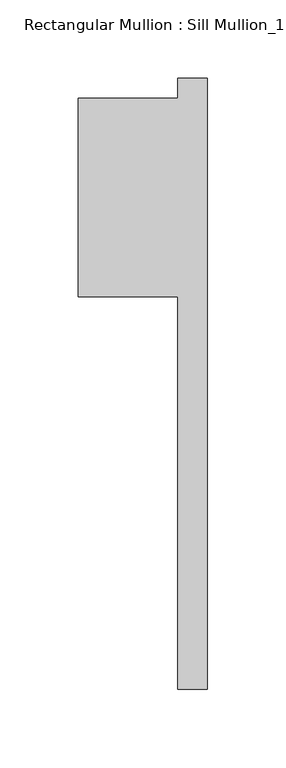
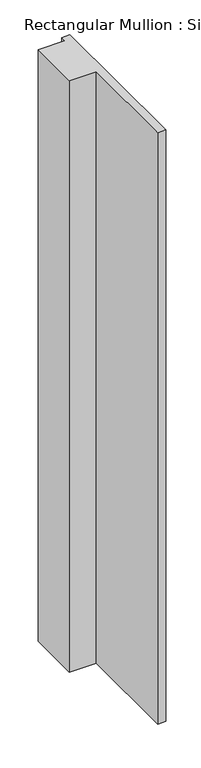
"""IFC4 building model written with IfcOpenShell, lengths in millimetres: member geometry."""

import ifcopenshell
import ifcopenshell.guid

model = None  # the IFC model being written
_history = None  # IfcOwnerHistory: only IFC2X3 demands one
_inside = {}  # id of a spatial element -> (the spatial element, [elements in it])
_under = {}  # id of a project, library or spatial element -> (it, [spatial elements below it])
_declared = {}  # id of a project -> (the project, [libraries it declares])
_typed = {}  # id of a type object -> (the type object, [elements of that type])
_made_of = {}  # id of a material, layer set ... -> (it, [elements and type objects made of it])


def new_model(schema):
    """Start an empty IFC model of exactly this schema.

    Asked for "IFC4X3", IfcOpenShell would pick the latest addendum, in which some entities
    have other attributes; the version numbers below select the first issue.
    IFC2X3 requires an IfcOwnerHistory on every rooted entity: one is made here for all.
    """
    global model, _history
    if schema == "IFC4X3":
        model = ifcopenshell.file(schema_version=(4, 3, 0, 0))
    else:
        model = ifcopenshell.file(schema=schema)
    _inside.clear()
    _under.clear()
    _declared.clear()
    _typed.clear()
    _made_of.clear()
    _history = None
    if model.schema == "IFC2X3":
        org = make("IfcOrganization", Name="unknown")
        user = make(
            "IfcPersonAndOrganization",
            ThePerson=make("IfcPerson", FamilyName="unknown"),
            TheOrganization=org,
        )
        app = make(
            "IfcApplication",
            ApplicationDeveloper=org,
            Version="unknown",
            ApplicationFullName="unknown",
            ApplicationIdentifier="unknown",
        )
        _history = make(
            "IfcOwnerHistory",
            OwningUser=user,
            OwningApplication=app,
            ChangeAction="ADDED",
            CreationDate=0,
        )
    return model


def make(cls, **values):
    """One entity of the class cls with the attributes given. An attribute that is None is left unset."""
    return model.create_entity(
        cls, **{name: value for name, value in values.items() if value is not None}
    )


def rooted(cls, **values):
    """An entity with a GlobalId (a new one), such as an element, a storey or a relation."""
    return make(cls, GlobalId=ifcopenshell.guid.new(), OwnerHistory=_history, **values)


def si_unit(unit_type, name, prefix=None):
    """IfcSIUnit, for example si_unit("LENGTHUNIT", "METRE", prefix="MILLI")."""
    return make("IfcSIUnit", UnitType=unit_type, Prefix=prefix, Name=name)


def assignment(units):
    """IfcUnitAssignment: the units of a project."""
    return None if units is None else make("IfcUnitAssignment", Units=units)


def point(xyz):
    """IfcCartesianPoint."""
    return None if xyz is None else make("IfcCartesianPoint", Coordinates=xyz)


def direction(xyz):
    """IfcDirection."""
    return None if xyz is None else make("IfcDirection", DirectionRatios=xyz)


def frame(location, z_axis=None, x_axis=None):
    """IfcAxis2Placement3D, a coordinate frame: its origin and axes. An axis left out is left unset."""
    return make(
        "IfcAxis2Placement3D",
        Location=point(location),
        Axis=direction(z_axis),
        RefDirection=direction(x_axis),
    )


def origin():
    """The frame at (0, 0, 0) with its axes left unset."""
    return frame((0.0, 0.0, 0.0))


def place(relative_to, where):
    """IfcLocalPlacement: puts the frame where relative to a parent placement (None: the world)."""
    return make(
        "IfcLocalPlacement", PlacementRelTo=relative_to, RelativePlacement=where
    )


def context(
    kind, dimensions, precision=None, world=None, true_north=None, identifier=None
):
    """IfcGeometricRepresentationContext, for example the 3D "Model" context."""
    return make(
        "IfcGeometricRepresentationContext",
        ContextIdentifier=identifier,
        ContextType=kind,
        CoordinateSpaceDimension=dimensions,
        Precision=precision,
        WorldCoordinateSystem=world,
        TrueNorth=true_north,
    )


def project(units=None, contexts=None):
    """IfcProject with its units and contexts."""
    return rooted(
        "IfcProject",
        Name="project",
        RepresentationContexts=contexts,
        UnitsInContext=assignment(units),
    )


def spatial(cls, under=None, at=None, **own):
    """A site, building, storey or space (cls), placed at a placement, below another one or the project."""
    s = rooted(cls, ObjectPlacement=at, **own)
    if under is not None:
        _under.setdefault(under.id(), (under, []))[1].append(s)
    return s


def polyline(points):
    """IfcPolyline through the points."""
    return make("IfcPolyline", Points=[point(p) for p in points])


def outline(outer, holes=None, kind="AREA"):
    """IfcArbitraryClosedProfileDef: a profile drawn as a closed curve; with holes, ...WithVoids."""
    if holes is None:
        return make("IfcArbitraryClosedProfileDef", ProfileType=kind, OuterCurve=outer)
    return make(
        "IfcArbitraryProfileDefWithVoids",
        ProfileType=kind,
        OuterCurve=outer,
        InnerCurves=holes,
    )


def extrude(swept, where, along, depth):
    """IfcExtrudedAreaSolid: the profile swept, set in the frame where, extruded along a direction by depth."""
    return make(
        "IfcExtrudedAreaSolid",
        SweptArea=swept,
        Position=where,
        ExtrudedDirection=direction(along),
        Depth=depth,
    )


def shape(context_of_items, identifier, shape_type, items):
    """IfcShapeRepresentation: the items that make up one representation, for example the "Body"."""
    return make(
        "IfcShapeRepresentation",
        ContextOfItems=context_of_items,
        RepresentationIdentifier=identifier,
        RepresentationType=shape_type,
        Items=items,
    )


def source(mapping_origin, context_of_items, identifier, shape_type, items):
    """IfcRepresentationMap: a shape defined once, which mapped items show again and again."""
    return make(
        "IfcRepresentationMap",
        MappingOrigin=mapping_origin,
        MappedRepresentation=shape(context_of_items, identifier, shape_type, items),
    )


def transform(
    local_origin,
    x_axis=None,
    y_axis=None,
    z_axis=None,
    scale=None,
    scale2=None,
    scale3=None,
    uniform=True,
):
    """IfcCartesianTransformationOperator3D, or its non-uniform kind. x_axis, y_axis, z_axis: its Axis1, 2, 3."""
    if uniform:
        return make(
            "IfcCartesianTransformationOperator3D",
            Axis1=direction(x_axis),
            Axis2=direction(y_axis),
            LocalOrigin=point(local_origin),
            Scale=scale,
            Axis3=direction(z_axis),
        )
    return make(
        "IfcCartesianTransformationOperator3DnonUniform",
        Axis1=direction(x_axis),
        Axis2=direction(y_axis),
        LocalOrigin=point(local_origin),
        Scale=scale,
        Axis3=direction(z_axis),
        Scale2=scale2,
        Scale3=scale3,
    )


def mapped(mapping_source, mapping_target):
    """IfcMappedItem: shows the shape of a source again, moved by a transform."""
    return make(
        "IfcMappedItem", MappingSource=mapping_source, MappingTarget=mapping_target
    )


def made_of(thing, what):
    """Note that an element or type object is made of a material, layer set ...; save() writes the relation."""
    if what is not None:
        _made_of.setdefault(what.id(), (what, []))[1].append(thing)
    return thing


def element(
    cls,
    number,
    at=None,
    inside=None,
    cuts=None,
    type_object=None,
    material=None,
    context=None,
    identifier="Body",
    shape_type=None,
    held_by="IfcProductDefinitionShape",
    body=None,
    shapes=None,
    **own,
):
    """One element of the class cls, such as IfcWall. Its Tag is "e" and its number.

    at: its placement. inside: the storey or other place that contains it. cuts: it is an
    opening in that element (IfcRelVoidsElement). A single representation is given by context,
    identifier, shape_type and body (its items); several are given by shapes. held_by: the class
    of the entity that holds the representations. save() writes the other relations.
    """
    e = rooted(cls, Tag="e%d" % number, ObjectPlacement=at, **own)
    if body is not None:
        shapes = [shape(context, identifier, shape_type, body)]
    if shapes is not None:
        e.Representation = make(held_by, Representations=shapes)
    if inside is not None:
        _inside.setdefault(inside.id(), (inside, []))[1].append(e)
    if cuts is not None:
        rooted(
            "IfcRelVoidsElement", RelatingBuildingElement=cuts, RelatedOpeningElement=e
        )
    if type_object is not None:
        _typed.setdefault(type_object.id(), (type_object, []))[1].append(e)
    return made_of(e, material)


def aggregate(whole, parts):
    """IfcRelAggregates: a whole, such as a stair, and the parts it consists of."""
    return rooted("IfcRelAggregates", RelatingObject=whole, RelatedObjects=parts)


def save(model, path):
    """Write the relations noted so far, then the file.

    IfcRelAggregates (storeys below a building ...), IfcRelContainedInSpatialStructure (elements
    in a storey), IfcRelDefinesByType, IfcRelAssociatesMaterial and IfcRelDeclares: one each for
    every whole, place, type object, material and project.
    """
    for whole, parts in _under.values():
        aggregate(whole, parts)
    for where, things in _inside.values():
        rooted(
            "IfcRelContainedInSpatialStructure",
            RelatedElements=things,
            RelatingStructure=where,
        )
    for kind, things in _typed.values():
        rooted("IfcRelDefinesByType", RelatedObjects=things, RelatingType=kind)
    for what, things in _made_of.values():
        rooted("IfcRelAssociatesMaterial", RelatedObjects=things, RelatingMaterial=what)
    for by, libraries in _declared.values():
        rooted("IfcRelDeclares", RelatingContext=by, RelatedDefinitions=libraries)
    model.write(path)


def member_39881f67(model_context):
    return source(origin(), model_context, "Body", "SweptSolid", [
        extrude(outline(polyline([(-82.55, -50.8), (-82.55, 76.2), (-19.05, 76.2), (-19.05, 88.9), (0.0, 88.9), (0.0, -301.625), (-19.05, -301.625), (-19.05, -50.8), (-82.55, -50.8)])), frame((0.0, 0.0, -1473.835), z_axis=(0.0, 0.0, 1.0), x_axis=(1.0, 0.0, 0.0)), (0.0, 0.0, 1.0), 1473.835),
    ])


if __name__ == "__main__":
    model = new_model("IFC4")
    model_context = context("Model", 3, world=origin())
    ifc_project = project(units=[si_unit("LENGTHUNIT", "METRE", prefix="MILLI")], contexts=[model_context])
    site = spatial("IfcSite", under=ifc_project)
    building = spatial("IfcBuilding", under=site)
    placement = place(None, origin())
    member_shape = member_39881f67(model_context)
    element("IfcMember", 1, ObjectType="Rectangular Mullion : Sill Mullion_15\" thick wall", at=placement, inside=building, context=model_context, shape_type="MappedRepresentation", body=[
        mapped(member_shape, transform((0.0, 0.0, 0.0), x_axis=(1.0, 0.0, 0.0), y_axis=(0.0, 1.0, 0.0), z_axis=(0.0, 0.0, 1.0))),
    ])
    save(model, "model.ifc")
